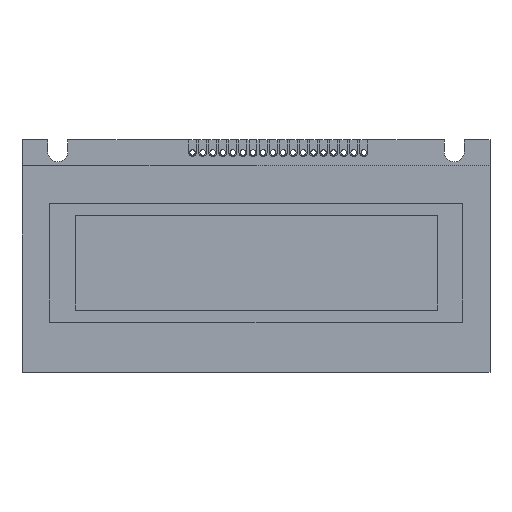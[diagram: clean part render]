
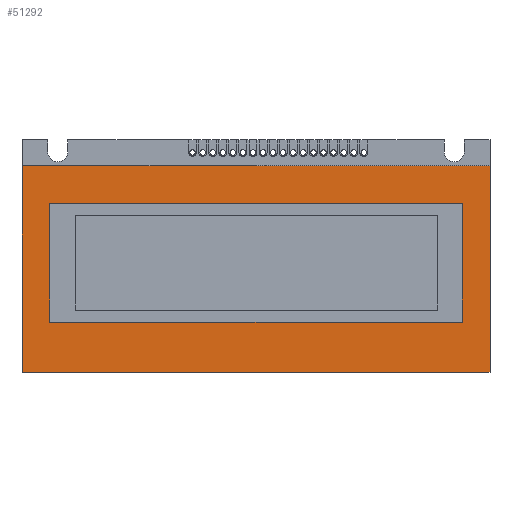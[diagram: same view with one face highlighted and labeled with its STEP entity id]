
A CAD part, top view. The second image highlights one B-rep face of the part: STEP entity #51292.
In plain terms, the highlighted planar face has unit normal (0, 0, 1).
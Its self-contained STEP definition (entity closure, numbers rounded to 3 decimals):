
#2196 = DIRECTION ( 'NONE',  ( 0., -1., 0. ) ) ;
#2295 = CARTESIAN_POINT ( 'NONE',  ( 26., -8.35, 3.7 ) ) ;
#2700 = CARTESIAN_POINT ( 'NONE',  ( 0., -14.65, 3.7 ) ) ;
#3181 = DIRECTION ( 'NONE',  ( 0., 0., 1. ) ) ;
#3390 = EDGE_CURVE ( 'NONE', #35177, #6574, #26070, .T. ) ;
#6032 = EDGE_CURVE ( 'NONE', #45096, #14116, #41408, .T. ) ;
#6574 = VERTEX_POINT ( 'NONE', #2295 ) ;
#8338 = EDGE_CURVE ( 'NONE', #6574, #28815, #30878, .T. ) ;
#9897 = VECTOR ( 'NONE', #11514, 1000. ) ;
#10222 = CARTESIAN_POINT ( 'NONE',  ( -26., 6.65, 3.7 ) ) ;
#10758 = VERTEX_POINT ( 'NONE', #36858 ) ;
#10880 = CARTESIAN_POINT ( 'NONE',  ( -29.5, 0., 3.7 ) ) ;
#11514 = DIRECTION ( 'NONE',  ( 0., -1., 0. ) ) ;
#12621 = ORIENTED_EDGE ( 'NONE', *, *, #25676, .F. ) ;
#12745 = LINE ( 'NONE', #46497, #52082 ) ;
#13635 = CARTESIAN_POINT ( 'NONE',  ( -26., -8.35, 3.7 ) ) ;
#13753 = DIRECTION ( 'NONE',  ( 0., 1., 0. ) ) ;
#13996 = CARTESIAN_POINT ( 'NONE',  ( -29.5, 11.35, 3.7 ) ) ;
#14116 = VERTEX_POINT ( 'NONE', #17796 ) ;
#14489 = LINE ( 'NONE', #10880, #31723 ) ;
#14608 = EDGE_CURVE ( 'NONE', #10758, #14116, #36666, .T. ) ;
#15905 = ORIENTED_EDGE ( 'NONE', *, *, #14608, .F. ) ;
#16757 = CARTESIAN_POINT ( 'NONE',  ( 0., 0., 3.7 ) ) ;
#17088 = EDGE_CURVE ( 'NONE', #53779, #10758, #12745, .T. ) ;
#17796 = CARTESIAN_POINT ( 'NONE',  ( 29.5, -14.65, 3.7 ) ) ;
#17803 = DIRECTION ( 'NONE',  ( 1., 0., 0. ) ) ;
#20049 = FACE_OUTER_BOUND ( 'NONE', #29603, .T. ) ;
#20532 = CARTESIAN_POINT ( 'NONE',  ( -26., -8.35, 3.7 ) ) ;
#22340 = EDGE_LOOP ( 'NONE', ( #30951, #30146, #12621, #49061 ) ) ;
#23932 = CARTESIAN_POINT ( 'NONE',  ( -26., 6.65, 3.7 ) ) ;
#24017 = VECTOR ( 'NONE', #2196, 1000. ) ;
#24746 = AXIS2_PLACEMENT_3D ( 'NONE', #16757, #3181, #54350 ) ;
#25676 = EDGE_CURVE ( 'NONE', #28815, #36366, #44672, .T. ) ;
#25715 = DIRECTION ( 'NONE',  ( 1., 0., 0. ) ) ;
#25921 = EDGE_CURVE ( 'NONE', #53779, #45096, #14489, .T. ) ;
#26070 = LINE ( 'NONE', #13635, #31482 ) ;
#26612 = ORIENTED_EDGE ( 'NONE', *, *, #25921, .T. ) ;
#27237 = DIRECTION ( 'NONE',  ( -1., 0., 0. ) ) ;
#27534 = ORIENTED_EDGE ( 'NONE', *, *, #17088, .F. ) ;
#28815 = VERTEX_POINT ( 'NONE', #33709 ) ;
#29603 = EDGE_LOOP ( 'NONE', ( #15905, #27534, #26612, #37996 ) ) ;
#30146 = ORIENTED_EDGE ( 'NONE', *, *, #31566, .F. ) ;
#30154 = CARTESIAN_POINT ( 'NONE',  ( -29.5, -14.65, 3.7 ) ) ;
#30665 = CARTESIAN_POINT ( 'NONE',  ( 29.5, 0., 3.7 ) ) ;
#30878 = LINE ( 'NONE', #48056, #47239 ) ;
#30951 = ORIENTED_EDGE ( 'NONE', *, *, #3390, .F. ) ;
#31482 = VECTOR ( 'NONE', #17803, 1000. ) ;
#31503 = CARTESIAN_POINT ( 'NONE',  ( -26., 6.65, 3.7 ) ) ;
#31566 = EDGE_CURVE ( 'NONE', #36366, #35177, #31767, .T. ) ;
#31723 = VECTOR ( 'NONE', #48229, 1000. ) ;
#31767 = LINE ( 'NONE', #31503, #24017 ) ;
#33709 = CARTESIAN_POINT ( 'NONE',  ( 26., 6.65, 3.7 ) ) ;
#35177 = VERTEX_POINT ( 'NONE', #20532 ) ;
#36366 = VERTEX_POINT ( 'NONE', #10222 ) ;
#36666 = LINE ( 'NONE', #30665, #9897 ) ;
#36858 = CARTESIAN_POINT ( 'NONE',  ( 29.5, 11.35, 3.7 ) ) ;
#37190 = PLANE ( 'NONE',  #24746 ) ;
#37996 = ORIENTED_EDGE ( 'NONE', *, *, #6032, .T. ) ;
#41408 = LINE ( 'NONE', #2700, #41896 ) ;
#41896 = VECTOR ( 'NONE', #49462, 1000. ) ;
#44672 = LINE ( 'NONE', #23932, #44977 ) ;
#44977 = VECTOR ( 'NONE', #27237, 1000. ) ;
#45096 = VERTEX_POINT ( 'NONE', #30154 ) ;
#45221 = FACE_BOUND ( 'NONE', #22340, .T. ) ;
#46497 = CARTESIAN_POINT ( 'NONE',  ( 0., 11.35, 3.7 ) ) ;
#47239 = VECTOR ( 'NONE', #13753, 1000. ) ;
#48056 = CARTESIAN_POINT ( 'NONE',  ( 26., 6.65, 3.7 ) ) ;
#48229 = DIRECTION ( 'NONE',  ( 0., -1., 0. ) ) ;
#49061 = ORIENTED_EDGE ( 'NONE', *, *, #8338, .F. ) ;
#49462 = DIRECTION ( 'NONE',  ( 1., 0., 0. ) ) ;
#51292 = ADVANCED_FACE ( 'NONE', ( #45221, #20049 ), #37190, .T. ) ;
#52082 = VECTOR ( 'NONE', #25715, 1000. ) ;
#53779 = VERTEX_POINT ( 'NONE', #13996 ) ;
#54350 = DIRECTION ( 'NONE',  ( 1., 0., 0. ) ) ;
